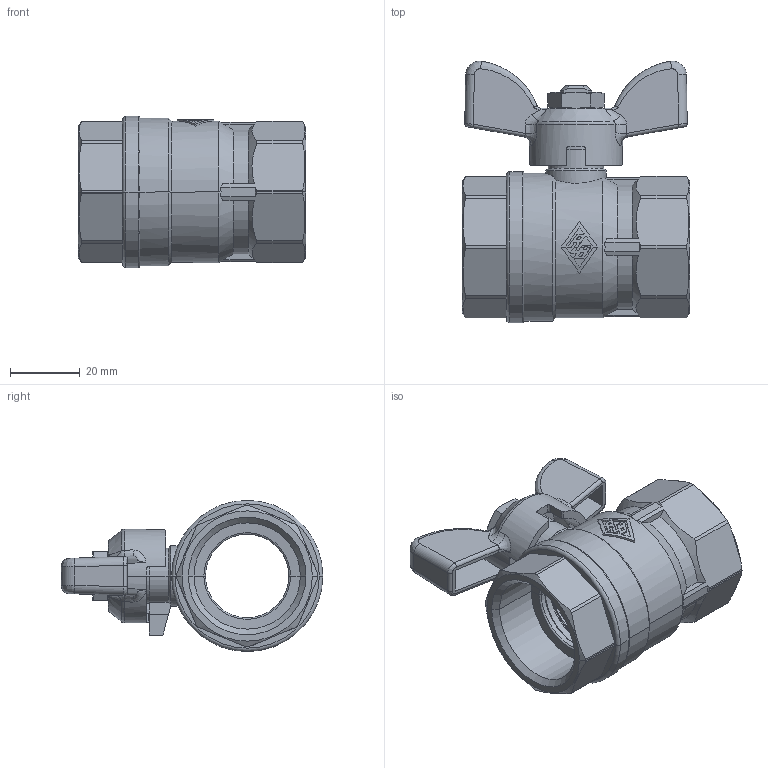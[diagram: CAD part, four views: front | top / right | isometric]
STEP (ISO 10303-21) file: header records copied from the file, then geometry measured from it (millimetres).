
FILE_DESCRIPTION(('OneSpaceDesigner STEP Export'),'2;1');
FILE_NAME('1520060000.stp','2009-04-22T17:16:48',(''),(''),'OneSpace Designer STEP processor for AP214 (Solid Model)','OneSpace Modeling 15.50C 25-Jan-2008 (C) CoCreate Software GmbH','');
FILE_SCHEMA(('AUTOMOTIVE_DESIGN { 1 0 10303 214 1 1 1 1 }'));
Length unit declared in the file: millimetre
Products named in the file (2): 1520060000
Assembly tree (1 placements, depth 2):
  1520060000
    1520060000
Bounding box: 65.5 x 75.25 x 43.5 mm (x, y, z)
Volume: 55956.6 mm3; surface area: 24178.4 mm2
Topology: 1 solids, 1 shells, 614 faces, 1678 edges, 1073 vertices
Faces by surface type: plane 289, cylinder 180, cone 81, bspline 40, torus 24
Entity records: 33842 total; most frequent: CARTESIAN_POINT 18153, ORIENTED_EDGE 3352, DIRECTION 2397, EDGE_CURVE 1676, VERTEX_POINT 1073, AXIS2_PLACEMENT_3D 899, EDGE_LOOP 637, FACE_OUTER_BOUND 614
